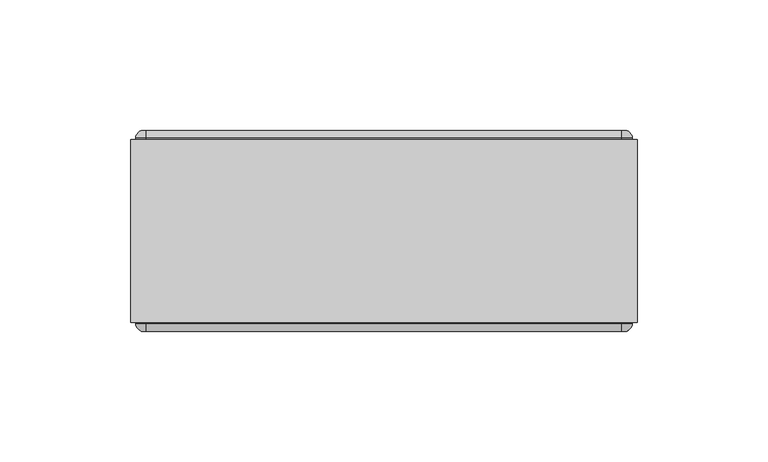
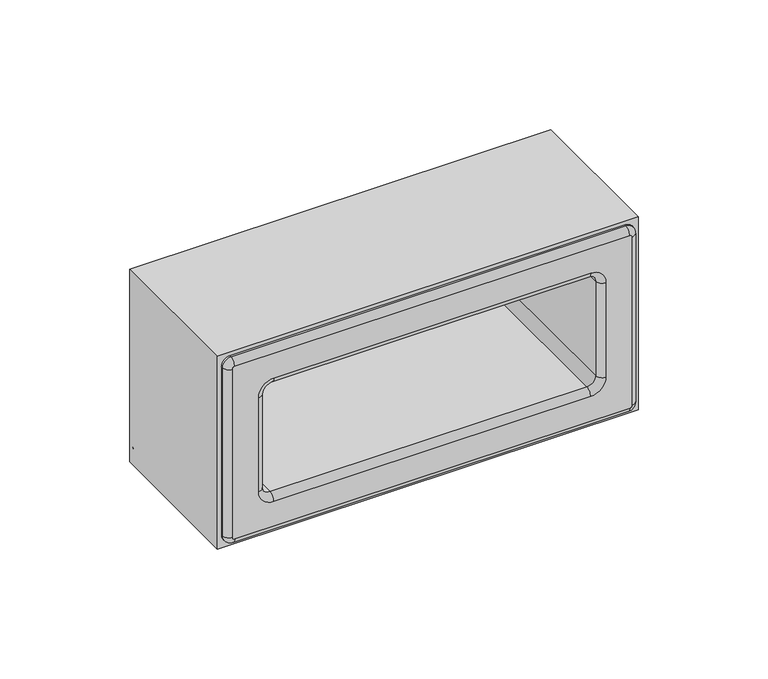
"""IFC4 building model written with IfcOpenShell, lengths in millimetres: plate geometry, PBSHOP - ON FIRE AURORA 9X19 (PAINEL CORTINA) : AURORA."""

import ifcopenshell
import ifcopenshell.guid

model = None  # the IFC model being written
_history = None  # IfcOwnerHistory: only IFC2X3 demands one
_inside = {}  # id of a spatial element -> (the spatial element, [elements in it])
_under = {}  # id of a project, library or spatial element -> (it, [spatial elements below it])
_declared = {}  # id of a project -> (the project, [libraries it declares])
_typed = {}  # id of a type object -> (the type object, [elements of that type])
_made_of = {}  # id of a material, layer set ... -> (it, [elements and type objects made of it])


def new_model(schema):
    """Start an empty IFC model of exactly this schema.

    Asked for "IFC4X3", IfcOpenShell would pick the latest addendum, in which some entities
    have other attributes; the version numbers below select the first issue.
    IFC2X3 requires an IfcOwnerHistory on every rooted entity: one is made here for all.
    """
    global model, _history
    if schema == "IFC4X3":
        model = ifcopenshell.file(schema_version=(4, 3, 0, 0))
    else:
        model = ifcopenshell.file(schema=schema)
    _inside.clear()
    _under.clear()
    _declared.clear()
    _typed.clear()
    _made_of.clear()
    _history = None
    if model.schema == "IFC2X3":
        org = make("IfcOrganization", Name="unknown")
        user = make(
            "IfcPersonAndOrganization",
            ThePerson=make("IfcPerson", FamilyName="unknown"),
            TheOrganization=org,
        )
        app = make(
            "IfcApplication",
            ApplicationDeveloper=org,
            Version="unknown",
            ApplicationFullName="unknown",
            ApplicationIdentifier="unknown",
        )
        _history = make(
            "IfcOwnerHistory",
            OwningUser=user,
            OwningApplication=app,
            ChangeAction="ADDED",
            CreationDate=0,
        )
    return model


def make(cls, **values):
    """One entity of the class cls with the attributes given. An attribute that is None is left unset."""
    return model.create_entity(
        cls, **{name: value for name, value in values.items() if value is not None}
    )


def rooted(cls, **values):
    """An entity with a GlobalId (a new one), such as an element, a storey or a relation."""
    return make(cls, GlobalId=ifcopenshell.guid.new(), OwnerHistory=_history, **values)


def si_unit(unit_type, name, prefix=None):
    """IfcSIUnit, for example si_unit("LENGTHUNIT", "METRE", prefix="MILLI")."""
    return make("IfcSIUnit", UnitType=unit_type, Prefix=prefix, Name=name)


def assignment(units):
    """IfcUnitAssignment: the units of a project."""
    return None if units is None else make("IfcUnitAssignment", Units=units)


def point(xyz):
    """IfcCartesianPoint."""
    return None if xyz is None else make("IfcCartesianPoint", Coordinates=xyz)


def direction(xyz):
    """IfcDirection."""
    return None if xyz is None else make("IfcDirection", DirectionRatios=xyz)


def frame(location, z_axis=None, x_axis=None):
    """IfcAxis2Placement3D, a coordinate frame: its origin and axes. An axis left out is left unset."""
    return make(
        "IfcAxis2Placement3D",
        Location=point(location),
        Axis=direction(z_axis),
        RefDirection=direction(x_axis),
    )


def frame_2d(location, x_axis=None):
    """IfcAxis2Placement2D, a coordinate frame in the plane: its origin and x axis."""
    return make(
        "IfcAxis2Placement2D", Location=point(location), RefDirection=direction(x_axis)
    )


def origin():
    """The frame at (0, 0, 0) with its axes left unset."""
    return frame((0.0, 0.0, 0.0))


def place(relative_to, where):
    """IfcLocalPlacement: puts the frame where relative to a parent placement (None: the world)."""
    return make(
        "IfcLocalPlacement", PlacementRelTo=relative_to, RelativePlacement=where
    )


def context(
    kind, dimensions, precision=None, world=None, true_north=None, identifier=None
):
    """IfcGeometricRepresentationContext, for example the 3D "Model" context."""
    return make(
        "IfcGeometricRepresentationContext",
        ContextIdentifier=identifier,
        ContextType=kind,
        CoordinateSpaceDimension=dimensions,
        Precision=precision,
        WorldCoordinateSystem=world,
        TrueNorth=true_north,
    )


def project(units=None, contexts=None):
    """IfcProject with its units and contexts."""
    return rooted(
        "IfcProject",
        Name="project",
        RepresentationContexts=contexts,
        UnitsInContext=assignment(units),
    )


def spatial(cls, under=None, at=None, **own):
    """A site, building, storey or space (cls), placed at a placement, below another one or the project."""
    s = rooted(cls, ObjectPlacement=at, **own)
    if under is not None:
        _under.setdefault(under.id(), (under, []))[1].append(s)
    return s


def polyline(points):
    """IfcPolyline through the points."""
    return make("IfcPolyline", Points=[point(p) for p in points])


def circle_curve(where, radius):
    """IfcCircle in the frame where."""
    return make("IfcCircle", Position=where, Radius=radius)


def ellipse_curve(where, semi_axis1, semi_axis2):
    """IfcEllipse in the frame where."""
    return make(
        "IfcEllipse", Position=where, SemiAxis1=semi_axis1, SemiAxis2=semi_axis2
    )


def trimmed(basis, trim1, trim2, sense, master):
    """IfcTrimmedCurve: the piece of a basis curve between two trims."""
    return make(
        "IfcTrimmedCurve",
        BasisCurve=basis,
        Trim1=trim1,
        Trim2=trim2,
        SenseAgreement=sense,
        MasterRepresentation=master,
    )


def segment(curve, same_sense, transition):
    """IfcCompositeCurveSegment."""
    return make(
        "IfcCompositeCurveSegment",
        Transition=transition,
        SameSense=same_sense,
        ParentCurve=curve,
    )


def composite_curve(segments, self_intersect=None):
    """IfcCompositeCurve: segments joined end to end."""
    return make("IfcCompositeCurve", Segments=segments, SelfIntersect=self_intersect)


def outline(outer, holes=None, kind="AREA"):
    """IfcArbitraryClosedProfileDef: a profile drawn as a closed curve; with holes, ...WithVoids."""
    if holes is None:
        return make("IfcArbitraryClosedProfileDef", ProfileType=kind, OuterCurve=outer)
    return make(
        "IfcArbitraryProfileDefWithVoids",
        ProfileType=kind,
        OuterCurve=outer,
        InnerCurves=holes,
    )


def extrude(swept, where, along, depth):
    """IfcExtrudedAreaSolid: the profile swept, set in the frame where, extruded along a direction by depth."""
    return make(
        "IfcExtrudedAreaSolid",
        SweptArea=swept,
        Position=where,
        ExtrudedDirection=direction(along),
        Depth=depth,
    )


def shape(context_of_items, identifier, shape_type, items):
    """IfcShapeRepresentation: the items that make up one representation, for example the "Body"."""
    return make(
        "IfcShapeRepresentation",
        ContextOfItems=context_of_items,
        RepresentationIdentifier=identifier,
        RepresentationType=shape_type,
        Items=items,
    )


def source(mapping_origin, context_of_items, identifier, shape_type, items):
    """IfcRepresentationMap: a shape defined once, which mapped items show again and again."""
    return make(
        "IfcRepresentationMap",
        MappingOrigin=mapping_origin,
        MappedRepresentation=shape(context_of_items, identifier, shape_type, items),
    )


def transform(
    local_origin,
    x_axis=None,
    y_axis=None,
    z_axis=None,
    scale=None,
    scale2=None,
    scale3=None,
    uniform=True,
):
    """IfcCartesianTransformationOperator3D, or its non-uniform kind. x_axis, y_axis, z_axis: its Axis1, 2, 3."""
    if uniform:
        return make(
            "IfcCartesianTransformationOperator3D",
            Axis1=direction(x_axis),
            Axis2=direction(y_axis),
            LocalOrigin=point(local_origin),
            Scale=scale,
            Axis3=direction(z_axis),
        )
    return make(
        "IfcCartesianTransformationOperator3DnonUniform",
        Axis1=direction(x_axis),
        Axis2=direction(y_axis),
        LocalOrigin=point(local_origin),
        Scale=scale,
        Axis3=direction(z_axis),
        Scale2=scale2,
        Scale3=scale3,
    )


def mapped(mapping_source, mapping_target):
    """IfcMappedItem: shows the shape of a source again, moved by a transform."""
    return make(
        "IfcMappedItem", MappingSource=mapping_source, MappingTarget=mapping_target
    )


def made_of(thing, what):
    """Note that an element or type object is made of a material, layer set ...; save() writes the relation."""
    if what is not None:
        _made_of.setdefault(what.id(), (what, []))[1].append(thing)
    return thing


def element(
    cls,
    number,
    at=None,
    inside=None,
    cuts=None,
    type_object=None,
    material=None,
    context=None,
    identifier="Body",
    shape_type=None,
    held_by="IfcProductDefinitionShape",
    body=None,
    shapes=None,
    **own,
):
    """One element of the class cls, such as IfcWall. Its Tag is "e" and its number.

    at: its placement. inside: the storey or other place that contains it. cuts: it is an
    opening in that element (IfcRelVoidsElement). A single representation is given by context,
    identifier, shape_type and body (its items); several are given by shapes. held_by: the class
    of the entity that holds the representations. save() writes the other relations.
    """
    e = rooted(cls, Tag="e%d" % number, ObjectPlacement=at, **own)
    if body is not None:
        shapes = [shape(context, identifier, shape_type, body)]
    if shapes is not None:
        e.Representation = make(held_by, Representations=shapes)
    if inside is not None:
        _inside.setdefault(inside.id(), (inside, []))[1].append(e)
    if cuts is not None:
        rooted(
            "IfcRelVoidsElement", RelatingBuildingElement=cuts, RelatedOpeningElement=e
        )
    if type_object is not None:
        _typed.setdefault(type_object.id(), (type_object, []))[1].append(e)
    return made_of(e, material)


def aggregate(whole, parts):
    """IfcRelAggregates: a whole, such as a stair, and the parts it consists of."""
    return rooted("IfcRelAggregates", RelatingObject=whole, RelatedObjects=parts)


def save(model, path):
    """Write the relations noted so far, then the file.

    IfcRelAggregates (storeys below a building ...), IfcRelContainedInSpatialStructure (elements
    in a storey), IfcRelDefinesByType, IfcRelAssociatesMaterial and IfcRelDeclares: one each for
    every whole, place, type object, material and project.
    """
    for whole, parts in _under.values():
        aggregate(whole, parts)
    for where, things in _inside.values():
        rooted(
            "IfcRelContainedInSpatialStructure",
            RelatedElements=things,
            RelatingStructure=where,
        )
    for kind, things in _typed.values():
        rooted("IfcRelDefinesByType", RelatedObjects=things, RelatingType=kind)
    for what, things in _made_of.values():
        rooted("IfcRelAssociatesMaterial", RelatedObjects=things, RelatingMaterial=what)
    for by, libraries in _declared.values():
        rooted("IfcRelDeclares", RelatingContext=by, RelatedDefinitions=libraries)
    model.write(path)


def plane_surface(at):
    """IfcPlane: the flat surface through the origin of the frame at, square to its z axis."""
    return make("IfcPlane", Position=at)


def cylinder_surface(at, radius):
    """IfcCylindricalSurface: all points at the distance radius from the z axis of the frame at."""
    return make("IfcCylindricalSurface", Position=at, Radius=radius)


def revolved_surface(curve, axis_point, axis_direction):
    """IfcSurfaceOfRevolution: the curve turned about the line through axis_point along axis_direction."""
    return make(
        "IfcSurfaceOfRevolution",
        SweptCurve=make("IfcArbitraryOpenProfileDef", ProfileType="CURVE", Curve=curve),
        AxisPosition=make("IfcAxis1Placement", Location=point(axis_point), Axis=direction(axis_direction)),
    )


def advanced_brep(points, edges, surfaces, faces):
    """IfcAdvancedBrep: a solid bounded by faces that lie on surfaces and meet in shared edges.

    An edge is (start, end): straight between two places in points (the first is 0);
    or (start, end, curve); or (start, end, curve, False) where it runs against its curve.
    A face is (place in surfaces, loops), or (place, loops, False) where it looks against
    its surface's normal. A loop lists edges by number (the first is 1), with a minus sign
    where the edge is run from its end to its start. The first loop is the outer one.
    """
    corners = [point(p) for p in points]
    vertices = [make("IfcVertexPoint", VertexGeometry=c) for c in corners]
    made = []
    for start, end, *more in edges:
        made.append(
            make(
                "IfcEdgeCurve",
                EdgeStart=vertices[start],
                EdgeEnd=vertices[end],
                EdgeGeometry=more[0] if more else make("IfcPolyline", Points=[corners[start], corners[end]]),
                SameSense=more[1] if len(more) > 1 else True,
            )
        )
    hull = []
    for where, loops, *sense in faces:
        bounds = []
        for j, loop in enumerate(loops):
            ring = [make("IfcOrientedEdge", EdgeElement=made[abs(k) - 1], Orientation=k > 0) for k in loop]
            bounds.append(
                make(
                    "IfcFaceOuterBound" if j == 0 else "IfcFaceBound",
                    Bound=make("IfcEdgeLoop", EdgeList=ring),
                    Orientation=True,
                )
            )
        hull.append(make("IfcAdvancedFace", Bounds=bounds, FaceSurface=surfaces[where], SameSense=sense[0] if sense else True))
    return make("IfcAdvancedBrep", Outer=make("IfcClosedShell", CfsFaces=hull))


def plate_12236348(model_context):
    return source(origin(), model_context, "Body", "SolidModel", [
        advanced_brep(
        [(-92.0, -38.5, 6.0), (-91.0, -38.5, 5.0), (91.0, -38.5, 5.0), (92.0, -38.5, 6.0), (92.0, -38.5, 88.0), (91.0, -38.5, 89.0), (-91.0, -38.5, 89.0), (-92.0, -38.5, 88.0), (-80.0, -38.5, 70.0), (-73.0, -38.5, 77.0), (73.0, -38.5, 77.0), (80.0, -38.5, 70.0), (80.0, -38.5, 24.0), (73.0, -38.5, 17.0), (-73.0, -38.5, 17.0), (-80.0, -38.5, 24.0), (-91.0, 38.5, 5.0), (-92.0, 38.5, 6.0), (-92.0, 38.5, 88.0), (-91.0, 38.5, 89.0), (91.0, 38.5, 89.0), (92.0, 38.5, 88.0), (92.0, 38.5, 6.0), (91.0, 38.5, 5.0), (-73.0, 38.5, 77.0), (-80.0, 38.5, 70.0), (-80.0, 38.5, 24.0), (-73.0, 38.5, 17.0), (73.0, 38.5, 17.0), (80.0, 38.5, 24.0), (80.0, 38.5, 70.0), (73.0, 38.5, 77.0), (-77.0, -35.5000029, 24.0), (-77.0, 35.5, 24.0), (-77.0, 35.5, 70.0), (-77.0, -35.5000017, 70.0), (-73.0, 35.5, 74.0), (-73.0, -35.5000017, 74.0), (73.0, 35.5, 74.0), (73.0, -35.5, 74.0), (77.0, 35.5, 70.0), (77.0, -35.5000017, 70.0), (77.0, 35.5, 24.0), (77.0, -35.5, 24.0), (73.0, 35.5, 20.0), (73.0, -35.5000017, 20.0), (-73.0, 35.5, 20.0), (-73.0, -35.5, 20.0), (95.0, -35.5, 6.0), (95.0, 35.5, 6.0), (95.0, 35.5, 88.0), (95.0, -35.5, 88.0), (91.0, 35.5, 92.0), (91.0, -35.5, 92.0), (-91.0, 35.5, 92.0), (-91.0, -35.5, 92.0), (-95.0, 35.5, 88.0), (-95.0, -35.5, 88.0), (-95.0, 35.5, 6.0), (-95.0, -35.5, 6.0), (-91.0, 35.5, 2.0), (-91.0, -35.5, 2.0), (91.0, 35.5, 2.0), (91.0, -35.5, 2.0)],
        [
            (0, 1, circle_curve(frame((-91.0, -38.5, 6.0), z_axis=(0.0, -1.0, 0.0), x_axis=(-1.0, 0.0, 0.0)), 1.0)),
            (1, 2),
            (2, 3, circle_curve(frame((91.0, -38.5, 6.0), z_axis=(0.0, -1.0, 0.0), x_axis=(0.0, 0.0, -1.0)), 1.0)),
            (3, 4),
            (4, 5, circle_curve(frame((91.0, -38.5, 88.0), z_axis=(0.0, -1.0, 0.0), x_axis=(1.0, 0.0, 0.0)), 1.0)),
            (5, 6),
            (6, 7, circle_curve(frame((-91.0, -38.5, 88.0), z_axis=(0.0, -1.0, 0.0), x_axis=(0.0, 0.0, 1.0)), 1.0)),
            (7, 0),
            (8, 9, circle_curve(frame((-73.0, -38.5, 70.0), z_axis=(0.0, 1.0, 0.0), x_axis=(-1.0, 0.0, 0.0)), 7.0)),
            (9, 10),
            (10, 11, circle_curve(frame((73.0, -38.5, 70.0), z_axis=(0.0, 1.0, 0.0), x_axis=(0.0, 0.0, 1.0)), 7.0)),
            (11, 12),
            (12, 13, circle_curve(frame((73.0, -38.5, 24.0), z_axis=(0.0, 1.0, 0.0), x_axis=(1.0, 0.0, 0.0)), 7.0)),
            (13, 14),
            (14, 15, circle_curve(frame((-73.0, -38.5, 24.0), z_axis=(0.0, 1.0, 0.0), x_axis=(0.0, 0.0, -1.0)), 7.0)),
            (15, 8),
            (16, 17, circle_curve(frame((-91.0, 38.5, 6.0), z_axis=(0.0, 1.0, 0.0), x_axis=(-1.0, 0.0, 0.0)), 1.0)),
            (17, 18),
            (18, 19, circle_curve(frame((-91.0, 38.5, 88.0), z_axis=(0.0, 1.0, 0.0), x_axis=(0.0, 0.0, 1.0)), 1.0)),
            (19, 20),
            (20, 21, circle_curve(frame((91.0, 38.5, 88.0), z_axis=(0.0, 1.0, 0.0), x_axis=(1.0, 0.0, 0.0)), 1.0)),
            (21, 22),
            (22, 23, circle_curve(frame((91.0, 38.5, 6.0), z_axis=(0.0, 1.0, 0.0), x_axis=(0.0, 0.0, -1.0)), 1.0)),
            (23, 16),
            (24, 25, circle_curve(frame((-73.0, 38.5, 70.0), z_axis=(0.0, -1.0, 0.0), x_axis=(-1.0, 0.0, 0.0)), 7.0)),
            (25, 26),
            (26, 27, circle_curve(frame((-73.0, 38.5, 24.0), z_axis=(0.0, -1.0, 0.0), x_axis=(0.0, 0.0, -1.0)), 7.0)),
            (27, 28),
            (28, 29, circle_curve(frame((73.0, 38.5, 24.0), z_axis=(0.0, -1.0, 0.0), x_axis=(1.0, 0.0, 0.0)), 7.0)),
            (29, 30),
            (30, 31, circle_curve(frame((73.0, 38.5, 70.0), z_axis=(0.0, -1.0, 0.0), x_axis=(0.0, 0.0, 1.0)), 7.0)),
            (31, 24),
            (32, 33),
            (33, 34),
            (34, 35),
            (35, 32),
            (34, 36, circle_curve(frame((-73.0, 35.5, 70.0), z_axis=(0.0, 1.0, 0.0), x_axis=(1.0, 0.0, 0.0)), 4.0)),
            (36, 37),
            (37, 35, circle_curve(frame((-73.0, -35.5, 70.0), z_axis=(0.0, -1.0, 0.0), x_axis=(1.0, 0.0, 0.0)), 4.0)),
            (36, 38),
            (38, 39),
            (39, 37),
            (38, 40, circle_curve(frame((73.0, 35.5, 70.0), z_axis=(0.0, 1.0, 0.0), x_axis=(1.0, 0.0, 0.0)), 4.0)),
            (40, 41),
            (41, 39, circle_curve(frame((73.0, -35.5, 70.0), z_axis=(0.0, -1.0, 0.0), x_axis=(1.0, 0.0, 0.0)), 4.0)),
            (40, 42),
            (42, 43),
            (43, 41),
            (42, 44, circle_curve(frame((73.0, 35.5, 24.0), z_axis=(0.0, 1.0, 0.0), x_axis=(1.0, 0.0, 0.0)), 4.0)),
            (44, 45),
            (45, 43, circle_curve(frame((73.0, -35.5, 24.0), z_axis=(0.0, -1.0, 0.0), x_axis=(1.0, 0.0, 0.0)), 4.0)),
            (44, 46),
            (46, 47),
            (47, 45),
            (32, 47, circle_curve(frame((-73.0, -35.5, 24.0), z_axis=(0.0, -1.0, 0.0), x_axis=(1.0, 0.0, 0.0)), 4.0)),
            (46, 33, circle_curve(frame((-73.0, 35.5, 24.0), z_axis=(0.0, 1.0, 0.0), x_axis=(1.0, 0.0, 0.0)), 4.0)),
            (48, 49),
            (49, 50),
            (50, 51),
            (51, 48),
            (50, 52, circle_curve(frame((91.0, 35.5, 88.0), z_axis=(0.0, -1.0, 0.0), x_axis=(1.0, 0.0, 0.0)), 4.0)),
            (52, 53),
            (53, 51, circle_curve(frame((91.0, -35.5, 88.0), z_axis=(0.0, 1.0, 0.0), x_axis=(1.0, 0.0, 0.0)), 4.0)),
            (52, 54),
            (54, 55),
            (55, 53),
            (54, 56, circle_curve(frame((-91.0, 35.5, 88.0), z_axis=(0.0, -1.0, 0.0), x_axis=(1.0, 0.0, 0.0)), 4.0)),
            (56, 57),
            (57, 55, circle_curve(frame((-91.0, -35.5, 88.0), z_axis=(0.0, 1.0, 0.0), x_axis=(1.0, 0.0, 0.0)), 4.0)),
            (56, 58),
            (58, 59),
            (59, 57),
            (58, 60, circle_curve(frame((-91.0, 35.5, 6.0), z_axis=(0.0, -1.0, 0.0), x_axis=(1.0, 0.0, 0.0)), 4.0)),
            (60, 61),
            (61, 59, circle_curve(frame((-91.0, -35.5, 6.0), z_axis=(0.0, 1.0, 0.0), x_axis=(1.0, 0.0, 0.0)), 4.0)),
            (60, 62),
            (62, 63),
            (63, 61),
            (48, 63, circle_curve(frame((91.0, -35.5, 6.0), z_axis=(0.0, 1.0, 0.0), x_axis=(1.0, 0.0, 0.0)), 4.0)),
            (62, 49, circle_curve(frame((91.0, 35.5, 6.0), z_axis=(0.0, -1.0, 0.0), x_axis=(1.0, 0.0, 0.0)), 4.0)),
            (61, 1, circle_curve(frame((-91.0, -35.5, 5.0), z_axis=(-1.0, 0.0, 0.0), x_axis=(0.0, 0.0, -1.0)), 3.0)),
            (0, 59, circle_curve(frame((-92.0, -35.5, 6.0), z_axis=(0.0, 0.0, -1.0), x_axis=(-1.0, 0.0, 0.0)), 3.0)),
            (16, 60, circle_curve(frame((-91.0, 35.5, 5.0), z_axis=(-1.0, 0.0, 0.0), x_axis=(0.0, 0.0, -1.0)), 3.0)),
            (58, 17, circle_curve(frame((-92.0, 35.5, 6.0), z_axis=(0.0, 0.0, -1.0), x_axis=(-1.0, 0.0, 0.0)), 3.0)),
            (63, 2, circle_curve(frame((91.0, -35.5, 5.0), z_axis=(-1.0, 0.0, 0.0), x_axis=(0.0, 0.0, -1.0)), 3.0)),
            (23, 62, circle_curve(frame((91.0, 35.5, 5.0), z_axis=(-1.0, 0.0, 0.0), x_axis=(0.0, 0.0, -1.0)), 3.0)),
            (48, 3, circle_curve(frame((92.0, -35.5, 6.0), z_axis=(0.0, 0.0, -1.0), x_axis=(1.0, 0.0, 0.0)), 3.0)),
            (22, 49, circle_curve(frame((92.0, 35.5, 6.0), z_axis=(0.0, 0.0, -1.0), x_axis=(1.0, 0.0, 0.0)), 3.0)),
            (51, 4, circle_curve(frame((92.0, -35.5, 88.0), z_axis=(0.0, 0.0, -1.0), x_axis=(1.0, 0.0, 0.0)), 3.0)),
            (21, 50, circle_curve(frame((92.0, 35.5, 88.0), z_axis=(0.0, 0.0, -1.0), x_axis=(1.0, 0.0, 0.0)), 3.0)),
            (53, 5, circle_curve(frame((91.0, -35.5, 89.0), z_axis=(1.0, 0.0, 0.0), x_axis=(0.0, 0.0, 1.0)), 3.0)),
            (20, 52, circle_curve(frame((91.0, 35.5, 89.0), z_axis=(1.0, 0.0, 0.0), x_axis=(0.0, 0.0, 1.0)), 3.0)),
            (55, 6, circle_curve(frame((-91.0, -35.5, 89.0), z_axis=(1.0, 0.0, 0.0), x_axis=(0.0, 0.0, 1.0)), 3.0)),
            (19, 54, circle_curve(frame((-91.0, 35.5, 89.0), z_axis=(1.0, 0.0, 0.0), x_axis=(0.0, 0.0, 1.0)), 3.0)),
            (57, 7, circle_curve(frame((-92.0, -35.5, 88.0), z_axis=(0.0, 0.0, 1.0), x_axis=(-1.0, 0.0, 0.0)), 3.0)),
            (18, 56, circle_curve(frame((-92.0, 35.5, 88.0), z_axis=(0.0, 0.0, 1.0), x_axis=(-1.0, 0.0, 0.0)), 3.0)),
            (37, 9, circle_curve(frame((-73.0, -35.5, 77.0), z_axis=(-1.0, 0.0, 0.0), x_axis=(0.0, -1.0, 0.0)), 3.0)),
            (8, 35, circle_curve(frame((-80.0, -35.5, 70.0), z_axis=(0.0, 0.0, 1.0), x_axis=(0.0, -1.0, 0.0)), 3.0)),
            (24, 36, circle_curve(frame((-73.0, 35.5, 77.0), z_axis=(-1.0, 0.0, 0.0), x_axis=(0.0, -1.0, 0.0)), 3.0)),
            (34, 25, circle_curve(frame((-80.0, 35.5, 70.0), z_axis=(0.0, 0.0, 1.0), x_axis=(0.0, -1.0, 0.0)), 3.0)),
            (39, 10, circle_curve(frame((73.0, -35.5, 77.0), z_axis=(-1.0, 0.0, 0.0), x_axis=(0.0, -1.0, 0.0)), 3.0)),
            (31, 38, circle_curve(frame((73.0, 35.5, 77.0), z_axis=(-1.0, 0.0, 0.0), x_axis=(0.0, -1.0, 0.0)), 3.0)),
            (41, 11, circle_curve(frame((80.0, -35.5, 70.0), z_axis=(0.0, 0.0, 1.0), x_axis=(0.0, -1.0, 0.0)), 3.0)),
            (30, 40, circle_curve(frame((80.0, 35.5, 70.0), z_axis=(0.0, 0.0, 1.0), x_axis=(0.0, -1.0, 0.0)), 3.0)),
            (43, 12, circle_curve(frame((80.0, -35.5, 24.0), z_axis=(0.0, 0.0, 1.0), x_axis=(0.0, -1.0, 0.0)), 3.0)),
            (29, 42, circle_curve(frame((80.0, 35.5, 24.0), z_axis=(0.0, 0.0, 1.0), x_axis=(0.0, -1.0, 0.0)), 3.0)),
            (45, 13, circle_curve(frame((73.0, -35.5, 17.0), z_axis=(1.0, 0.0, 0.0), x_axis=(0.0, -1.0, 0.0)), 3.0)),
            (28, 44, circle_curve(frame((73.0, 35.5, 17.0), z_axis=(1.0, 0.0, 0.0), x_axis=(0.0, -1.0, 0.0)), 3.0)),
            (47, 14, circle_curve(frame((-73.0, -35.5, 17.0), z_axis=(1.0, 0.0, 0.0), x_axis=(0.0, -1.0, 0.0)), 3.0)),
            (27, 46, circle_curve(frame((-73.0, 35.5, 17.0), z_axis=(1.0, 0.0, 0.0), x_axis=(0.0, -1.0, 0.0)), 3.0)),
            (32, 15, circle_curve(frame((-80.0, -35.5, 24.0), z_axis=(0.0, 0.0, -1.0), x_axis=(0.0, -1.0, 0.0)), 3.0)),
            (26, 33, circle_curve(frame((-80.0, 35.5, 24.0), z_axis=(0.0, 0.0, -1.0), x_axis=(0.0, -1.0, 0.0)), 3.0)),
        ],
        [
            plane_surface(frame((-77.0, -38.5, 70.0), z_axis=(0.0, -1.0, 0.0), x_axis=(0.0, 0.0, 1.0))),
            plane_surface(frame((-77.0, 38.5, 70.0), z_axis=(0.0, 1.0, 0.0), x_axis=(0.0, 0.0, -1.0))),
            plane_surface(frame((-77.0, -38.5, 24.0), z_axis=(1.0, 0.0, 0.0), x_axis=(0.0, 1.0, 0.0))),
            revolved_surface(polyline([(-69.0, 35.5, 70.0), (-69.0, -35.5000017, 70.0)]), (-73.0, 38.5, 70.0), (0.0, 1.0, 0.0)),
            plane_surface(frame((-73.0, -38.5, 74.0), z_axis=(0.0, 0.0, -1.0), x_axis=(0.0, 1.0, 0.0))),
            revolved_surface(polyline([(77.0, 35.5, 70.0), (77.0, -35.5000017, 70.0)]), (73.0, 38.5, 70.0), (0.0, 1.0, 0.0)),
            plane_surface(frame((77.0, -38.5, 70.0), z_axis=(-1.0, 0.0, 0.0), x_axis=(0.0, 1.0, 0.0))),
            revolved_surface(polyline([(77.0, 35.5, 24.0), (77.0, -35.5000017, 24.0)]), (73.0, 38.5, 24.0), (0.0, 1.0, 0.0)),
            plane_surface(frame((73.0, -38.5, 20.0), z_axis=(0.0, 0.0, 1.0), x_axis=(0.0, 1.0, 0.0))),
            revolved_surface(polyline([(-69.0, 35.5, 24.0), (-69.0, -35.5000029, 24.0)]), (-73.0, 38.5, 24.0), (0.0, 1.0, 0.0)),
            plane_surface(frame((95.0, -38.5, 6.0), z_axis=(1.0, 0.0, 0.0), x_axis=(0.0, 1.0, 0.0))),
            cylinder_surface(frame((91.0, 0.0, 88.0), z_axis=(0.0, -1.0, 0.0), x_axis=(1.0, 0.0, 0.0)), 4.0),
            plane_surface(frame((91.0, -38.5, 92.0), z_axis=(0.0, 0.0, 1.0), x_axis=(0.0, 1.0, 0.0))),
            cylinder_surface(frame((-91.0, 0.0, 88.0), z_axis=(0.0, -1.0, 0.0), x_axis=(1.0, 0.0, 0.0)), 4.0),
            plane_surface(frame((-95.0, -38.5, 88.0), z_axis=(-1.0, 0.0, 0.0), x_axis=(0.0, 1.0, 0.0))),
            cylinder_surface(frame((-91.0, 0.0, 6.0), z_axis=(0.0, -1.0, 0.0), x_axis=(1.0, 0.0, 0.0)), 4.0),
            plane_surface(frame((-91.0, -38.5, 2.0), z_axis=(0.0, 0.0, -1.0), x_axis=(0.0, 1.0, 0.0))),
            cylinder_surface(frame((91.0, 0.0, 6.0), z_axis=(0.0, -1.0, 0.0), x_axis=(1.0, 0.0, 0.0)), 4.0),
            revolved_surface(trimmed(ellipse_curve(frame((-92.0, -35.5, 6.0), z_axis=(0.0, 0.0, 1.0), x_axis=(-1.0, 0.0, 0.0)), 3.0, 3.0), [point((-95.0, -35.5, 6.0))], [point((-92.0, -38.5, 6.0))], True, "CARTESIAN"), (-91.0, -38.5, 6.0), (0.0, -1.0, 0.0)),
            revolved_surface(trimmed(ellipse_curve(frame((-92.0, 35.5, 6.0), z_axis=(0.0, 0.0, 1.0), x_axis=(-1.0, 0.0, 0.0)), 3.0, 3.0), [point((-92.0, 38.5, 6.0))], [point((-95.0, 35.5, 6.0))], True, "CARTESIAN"), (-91.0, -38.5, 6.0), (0.0, -1.0, 0.0)),
            cylinder_surface(frame((-91.0, -35.5, 5.0), z_axis=(1.0, 0.0, 0.0), x_axis=(0.0, 0.0, -1.0)), 3.0),
            cylinder_surface(frame((-91.0, 35.5, 5.0), z_axis=(1.0, 0.0, 0.0), x_axis=(0.0, 0.0, -1.0)), 3.0),
            revolved_surface(trimmed(ellipse_curve(frame((91.0, -35.5, 5.0), z_axis=(-1.0, 0.0, 0.0), x_axis=(0.0, 0.0, -1.0)), 3.0, 3.0), [point((91.0, -35.5, 2.0))], [point((91.0, -38.5, 5.0))], True, "CARTESIAN"), (91.0, -38.5, 6.0), (0.0, -1.0, 0.0)),
            revolved_surface(trimmed(ellipse_curve(frame((91.0, 35.5, 5.0), z_axis=(-1.0, 0.0, 0.0), x_axis=(0.0, 0.0, -1.0)), 3.0, 3.0), [point((91.0, 38.5, 5.0))], [point((91.0, 35.5, 2.0))], True, "CARTESIAN"), (91.0, -38.5, 6.0), (0.0, -1.0, 0.0)),
            cylinder_surface(frame((92.0, -35.5, 6.0), z_axis=(0.0, 0.0, 1.0), x_axis=(1.0, 0.0, 0.0)), 3.0),
            cylinder_surface(frame((92.0, 35.5, 6.0), z_axis=(0.0, 0.0, 1.0), x_axis=(1.0, 0.0, 0.0)), 3.0),
            revolved_surface(trimmed(ellipse_curve(frame((92.0, -35.5, 88.0), z_axis=(0.0, 0.0, -1.0), x_axis=(1.0, 0.0, 0.0)), 3.0, 3.0), [point((95.0, -35.5, 88.0))], [point((92.0, -38.5, 88.0))], True, "CARTESIAN"), (91.0, -38.5, 88.0), (0.0, -1.0, 0.0)),
            revolved_surface(trimmed(ellipse_curve(frame((92.0, 35.5, 88.0), z_axis=(0.0, 0.0, -1.0), x_axis=(1.0, 0.0, 0.0)), 3.0, 3.0), [point((92.0, 38.5, 88.0))], [point((95.0, 35.5, 88.0))], True, "CARTESIAN"), (91.0, -38.5, 88.0), (0.0, -1.0, 0.0)),
            cylinder_surface(frame((91.0, -35.5, 89.0), z_axis=(-1.0, 0.0, 0.0), x_axis=(0.0, 0.0, 1.0)), 3.0),
            cylinder_surface(frame((91.0, 35.5, 89.0), z_axis=(-1.0, 0.0, 0.0), x_axis=(0.0, 0.0, 1.0)), 3.0),
            revolved_surface(trimmed(ellipse_curve(frame((-91.0, -35.5, 89.0), z_axis=(1.0, 0.0, 0.0), x_axis=(0.0, 0.0, 1.0)), 3.0, 3.0), [point((-91.0, -35.5, 92.0))], [point((-91.0, -38.5, 89.0))], True, "CARTESIAN"), (-91.0, -38.5, 88.0), (0.0, -1.0, 0.0)),
            revolved_surface(trimmed(ellipse_curve(frame((-91.0, 35.5, 89.0), z_axis=(1.0, 0.0, 0.0), x_axis=(0.0, 0.0, 1.0)), 3.0, 3.0), [point((-91.0, 38.5, 89.0))], [point((-91.0, 35.5, 92.0))], True, "CARTESIAN"), (-91.0, -38.5, 88.0), (0.0, -1.0, 0.0)),
            cylinder_surface(frame((-92.0, -35.5, 88.0), z_axis=(0.0, 0.0, -1.0), x_axis=(-1.0, 0.0, 0.0)), 3.0),
            cylinder_surface(frame((-92.0, 35.5, 88.0), z_axis=(0.0, 0.0, -1.0), x_axis=(-1.0, 0.0, 0.0)), 3.0),
            revolved_surface(trimmed(ellipse_curve(frame((-80.0, -35.5, 70.0), z_axis=(0.0, 0.0, -1.0), x_axis=(0.0, -1.0, 0.0)), 3.0, 3.0), [point((-77.0, -35.5, 70.0))], [point((-80.0, -38.5, 70.0))], True, "CARTESIAN"), (-73.0, -38.5, 70.0), (0.0, 1.0, 0.0)),
            revolved_surface(trimmed(ellipse_curve(frame((-80.0, 35.5, 70.0), z_axis=(0.0, 0.0, -1.0), x_axis=(0.0, -1.0, 0.0)), 3.0, 3.0), [point((-80.0, 38.5, 70.0))], [point((-77.0, 35.5, 70.0))], True, "CARTESIAN"), (-73.0, -38.5, 70.0), (0.0, 1.0, 0.0)),
            cylinder_surface(frame((-73.0, -35.5, 77.0), z_axis=(1.0, 0.0, 0.0), x_axis=(0.0, -1.0, 0.0)), 3.0),
            cylinder_surface(frame((-73.0, 35.5, 77.0), z_axis=(1.0, 0.0, 0.0), x_axis=(0.0, -1.0, 0.0)), 3.0),
            revolved_surface(trimmed(ellipse_curve(frame((73.0, -35.5, 77.0), z_axis=(-1.0, 0.0, 0.0), x_axis=(0.0, -1.0, 0.0)), 3.0, 3.0), [point((73.0, -35.5, 74.0))], [point((73.0, -38.5, 77.0))], True, "CARTESIAN"), (73.0, -38.5, 70.0), (0.0, 1.0, 0.0)),
            revolved_surface(trimmed(ellipse_curve(frame((73.0, 35.5, 77.0), z_axis=(-1.0, 0.0, 0.0), x_axis=(0.0, -1.0, 0.0)), 3.0, 3.0), [point((73.0, 38.5, 77.0))], [point((73.0, 35.5, 74.0))], True, "CARTESIAN"), (73.0, -38.5, 70.0), (0.0, 1.0, 0.0)),
            cylinder_surface(frame((80.0, -35.5, 70.0), z_axis=(0.0, 0.0, -1.0), x_axis=(0.0, -1.0, 0.0)), 3.0),
            cylinder_surface(frame((80.0, 35.5, 70.0), z_axis=(0.0, 0.0, -1.0), x_axis=(0.0, -1.0, 0.0)), 3.0),
            revolved_surface(trimmed(ellipse_curve(frame((80.0, -35.5, 24.0), z_axis=(0.0, 0.0, 1.0), x_axis=(0.0, -1.0, 0.0)), 3.0, 3.0), [point((77.0, -35.5, 24.0))], [point((80.0, -38.5, 24.0))], True, "CARTESIAN"), (73.0, -38.5, 24.0), (0.0, 1.0, 0.0)),
            revolved_surface(trimmed(ellipse_curve(frame((80.0, 35.5, 24.0), z_axis=(0.0, 0.0, 1.0), x_axis=(0.0, -1.0, 0.0)), 3.0, 3.0), [point((80.0, 38.5, 24.0))], [point((77.0, 35.5, 24.0))], True, "CARTESIAN"), (73.0, -38.5, 24.0), (0.0, 1.0, 0.0)),
            cylinder_surface(frame((73.0, -35.5, 17.0), z_axis=(-1.0, 0.0, 0.0), x_axis=(0.0, -1.0, 0.0)), 3.0),
            cylinder_surface(frame((73.0, 35.5, 17.0), z_axis=(-1.0, 0.0, 0.0), x_axis=(0.0, -1.0, 0.0)), 3.0),
            revolved_surface(trimmed(ellipse_curve(frame((-73.0, -35.5, 17.0), z_axis=(1.0, 0.0, 0.0), x_axis=(0.0, -1.0, 0.0)), 3.0, 3.0), [point((-73.0, -35.5, 20.0))], [point((-73.0, -38.5, 17.0))], True, "CARTESIAN"), (-73.0, -38.5, 24.0), (0.0, 1.0, 0.0)),
            revolved_surface(trimmed(ellipse_curve(frame((-73.0, 35.5, 17.0), z_axis=(1.0, 0.0, 0.0), x_axis=(0.0, -1.0, 0.0)), 3.0, 3.0), [point((-73.0, 38.5, 17.0))], [point((-73.0, 35.5, 20.0))], True, "CARTESIAN"), (-73.0, -38.5, 24.0), (0.0, 1.0, 0.0)),
            cylinder_surface(frame((-80.0, -35.5, 24.0), z_axis=(0.0, 0.0, 1.0), x_axis=(0.0, -1.0, 0.0)), 3.0),
            cylinder_surface(frame((-80.0, 35.5, 24.0), z_axis=(0.0, 0.0, 1.0), x_axis=(0.0, -1.0, 0.0)), 3.0),
        ],
        [
            (0, [[1, 2, 3, 4, 5, 6, 7, 8], [9, 10, 11, 12, 13, 14, 15, 16]]),
            (1, [[17, 18, 19, 20, 21, 22, 23, 24], [25, 26, 27, 28, 29, 30, 31, 32]]),
            (2, [[33, 34, 35, 36]]),
            (3, [[-35, 37, 38, 39]]),
            (4, [[-38, 40, 41, 42]]),
            (5, [[-41, 43, 44, 45]]),
            (6, [[-44, 46, 47, 48]]),
            (7, [[-47, 49, 50, 51]]),
            (8, [[-50, 52, 53, 54]]),
            (9, [[-33, 55, -53, 56]]),
            (10, [[57, 58, 59, 60]]),
            (11, [[-59, 61, 62, 63]]),
            (12, [[-62, 64, 65, 66]]),
            (13, [[-65, 67, 68, 69]]),
            (14, [[-68, 70, 71, 72]]),
            (15, [[-71, 73, 74, 75]]),
            (16, [[-74, 76, 77, 78]]),
            (17, [[-57, 79, -77, 80]]),
            (18, [[81, -1, 82, -75]]),
            (19, [[83, -73, 84, -17]]),
            (20, [[-81, -78, 85, -2]]),
            (21, [[-83, -24, 86, -76]]),
            (22, [[-85, -79, 87, -3]]),
            (23, [[-86, -23, 88, -80]]),
            (24, [[-87, -60, 89, -4]]),
            (25, [[-88, -22, 90, -58]]),
            (26, [[-89, -63, 91, -5]]),
            (27, [[-90, -21, 92, -61]]),
            (28, [[-91, -66, 93, -6]]),
            (29, [[-92, -20, 94, -64]]),
            (30, [[-93, -69, 95, -7]]),
            (31, [[-94, -19, 96, -67]]),
            (32, [[-82, -8, -95, -72]]),
            (33, [[-84, -70, -96, -18]]),
            (34, [[97, -9, 98, -39]]),
            (35, [[99, -37, 100, -25]]),
            (36, [[-97, -42, 101, -10]]),
            (37, [[-99, -32, 102, -40]]),
            (38, [[-101, -45, 103, -11]]),
            (39, [[-102, -31, 104, -43]]),
            (40, [[-103, -48, 105, -12]]),
            (41, [[-104, -30, 106, -46]]),
            (42, [[-105, -51, 107, -13]]),
            (43, [[-106, -29, 108, -49]]),
            (44, [[-107, -54, 109, -14]]),
            (45, [[-108, -28, 110, -52]]),
            (46, [[-109, -55, 111, -15]]),
            (47, [[-110, -27, 112, -56]]),
            (48, [[-98, -16, -111, -36]]),
            (49, [[-100, -34, -112, -26]]),
        ],
    ),
        extrude(outline(polyline([(94.0, -97.0), (0.0, -97.0), (0.0, 97.0), (94.0, 97.0), (94.0, -97.0)]), holes=[composite_curve([segment(trimmed(circle_curve(frame_2d((6.0, -91.0)), 4.0), [point((2.0, -91.0))], [point((6.0, -95.0))], True, "CARTESIAN"), True, "CONTINUOUS"), segment(polyline([(6.0, -95.0), (88.0, -95.0)]), True, "CONTINUOUS"), segment(trimmed(circle_curve(frame_2d((88.0, -91.0)), 4.0), [point((88.0, -95.0))], [point((92.0, -91.0))], True, "CARTESIAN"), True, "CONTINUOUS"), segment(polyline([(92.0, -91.0), (92.0, 91.0)]), True, "CONTINUOUS"), segment(trimmed(circle_curve(frame_2d((88.0, 91.0)), 4.0), [point((92.0, 91.0))], [point((88.0, 95.0))], True, "CARTESIAN"), True, "CONTINUOUS"), segment(polyline([(88.0, 95.0), (6.0, 95.0)]), True, "CONTINUOUS"), segment(trimmed(circle_curve(frame_2d((6.0, 91.0)), 4.0), [point((6.0, 95.0))], [point((2.0, 91.0))], True, "CARTESIAN"), True, "CONTINUOUS"), segment(polyline([(2.0, 91.0), (2.0, -91.0)]), True, "CONTINUOUS")], self_intersect=False)]), frame((0.0, -35.0, 0.0), z_axis=(0.0, 1.0, 0.0), x_axis=(0.0, 0.0, 1.0)), (0.0, 0.0, 1.0), 70.0),
    ])


if __name__ == "__main__":
    model = new_model("IFC4")
    model_context = context("Model", 3, world=origin())
    ifc_project = project(units=[si_unit("LENGTHUNIT", "METRE", prefix="MILLI")], contexts=[model_context])
    site = spatial("IfcSite", under=ifc_project)
    building = spatial("IfcBuilding", under=site)
    placement = place(None, origin())
    plate_shape = plate_12236348(model_context)
    element("IfcPlate", 1, ObjectType="PBSHOP - ON FIRE AURORA 9X19 (PAINEL CORTINA) : AURORA", at=placement, inside=building, context=model_context, shape_type="MappedRepresentation", body=[
        mapped(plate_shape, transform((0.0, 0.0, 0.0), x_axis=(1.0, 0.0, 0.0), y_axis=(0.0, 1.0, 0.0), z_axis=(0.0, 0.0, 1.0))),
    ])
    save(model, "model.ifc")
